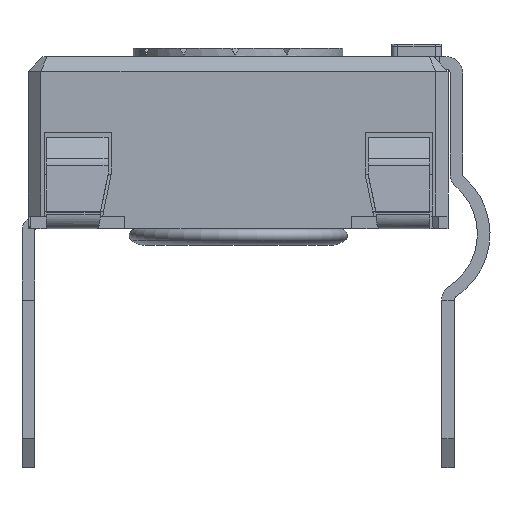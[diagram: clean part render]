
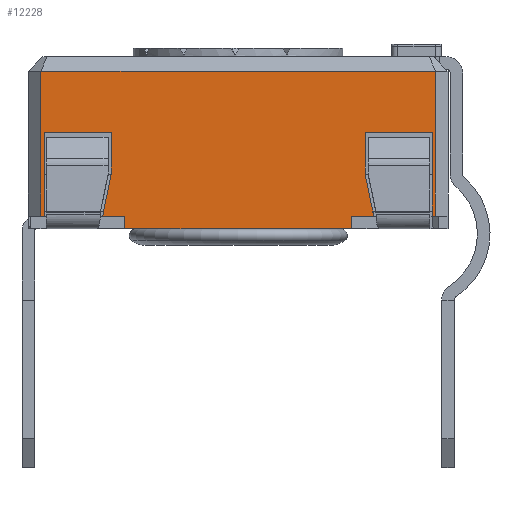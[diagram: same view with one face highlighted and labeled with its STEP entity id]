
A CAD part, left-side view. The second image highlights one B-rep face of the part: STEP entity #12228.
In plain terms, the highlighted planar face has unit normal (-1, 0, 0).
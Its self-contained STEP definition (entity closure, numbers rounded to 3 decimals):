
#491=PLANE('',#13157);
#1092=FACE_OUTER_BOUND('',#1717,.T.);
#1717=EDGE_LOOP('',(#10680,#10681,#10682,#10683,#10684,#10685,#10686,#10687,
#10688,#10689,#10690,#10691,#10692,#10693,#10694,#10695,#10696,#10697));
#2556=LINE('',#18425,#3972);
#2587=LINE('',#18487,#4003);
#2593=LINE('',#18499,#4009);
#2614=LINE('',#18541,#4030);
#2784=LINE('',#19073,#4200);
#2827=LINE('',#19155,#4243);
#2830=LINE('',#19161,#4246);
#2979=LINE('',#19539,#4395);
#2981=LINE('',#19543,#4397);
#2985=LINE('',#19551,#4401);
#2988=LINE('',#19557,#4404);
#2995=LINE('',#19571,#4411);
#2997=LINE('',#19575,#4413);
#3003=LINE('',#19586,#4419);
#3004=LINE('',#19588,#4420);
#3005=LINE('',#19591,#4421);
#3006=LINE('',#19593,#4422);
#3007=LINE('',#19594,#4423);
#3972=VECTOR('',#14990,10.);
#4003=VECTOR('',#15025,10.);
#4009=VECTOR('',#15031,10.);
#4030=VECTOR('',#15054,10.);
#4200=VECTOR('',#15534,10.);
#4243=VECTOR('',#15609,10.);
#4246=VECTOR('',#15618,10.);
#4395=VECTOR('',#15985,10.);
#4397=VECTOR('',#15989,10.);
#4401=VECTOR('',#15995,10.);
#4404=VECTOR('',#16000,10.);
#4411=VECTOR('',#16015,10.);
#4413=VECTOR('',#16019,10.);
#4419=VECTOR('',#16031,10.);
#4420=VECTOR('',#16034,10.);
#4421=VECTOR('',#16037,10.);
#4422=VECTOR('',#16038,10.);
#4423=VECTOR('',#16039,10.);
#5592=VERTEX_POINT('',#18422);
#5593=VERTEX_POINT('',#18424);
#5621=VERTEX_POINT('',#18484);
#5622=VERTEX_POINT('',#18486);
#5627=VERTEX_POINT('',#18496);
#5628=VERTEX_POINT('',#18498);
#5647=VERTEX_POINT('',#18538);
#5648=VERTEX_POINT('',#18540);
#5800=VERTEX_POINT('',#19070);
#5801=VERTEX_POINT('',#19072);
#5920=VERTEX_POINT('',#19537);
#5921=VERTEX_POINT('',#19542);
#5924=VERTEX_POINT('',#19549);
#5926=VERTEX_POINT('',#19556);
#5929=VERTEX_POINT('',#19570);
#5930=VERTEX_POINT('',#19574);
#5933=VERTEX_POINT('',#19590);
#5934=VERTEX_POINT('',#19592);
#7015=EDGE_CURVE('',#5593,#5592,#2556,.T.);
#7046=EDGE_CURVE('',#5622,#5621,#2587,.T.);
#7052=EDGE_CURVE('',#5628,#5627,#2593,.T.);
#7073=EDGE_CURVE('',#5648,#5647,#2614,.T.);
#7321=EDGE_CURVE('',#5801,#5800,#2784,.T.);
#7364=EDGE_CURVE('',#5622,#5800,#2827,.T.);
#7367=EDGE_CURVE('',#5627,#5801,#2830,.T.);
#7553=EDGE_CURVE('',#5621,#5920,#2979,.T.);
#7555=EDGE_CURVE('',#5921,#5628,#2981,.T.);
#7559=EDGE_CURVE('',#5920,#5924,#2985,.T.);
#7562=EDGE_CURVE('',#5926,#5921,#2988,.T.);
#7569=EDGE_CURVE('',#5929,#5926,#2995,.T.);
#7571=EDGE_CURVE('',#5930,#5648,#2997,.T.);
#7577=EDGE_CURVE('',#5924,#5930,#3003,.T.);
#7578=EDGE_CURVE('',#5592,#5929,#3004,.T.);
#7579=EDGE_CURVE('',#5933,#5647,#3005,.T.);
#7580=EDGE_CURVE('',#5934,#5933,#3006,.T.);
#7581=EDGE_CURVE('',#5934,#5593,#3007,.T.);
#10680=ORIENTED_EDGE('',*,*,#7578,.T.);
#10681=ORIENTED_EDGE('',*,*,#7569,.T.);
#10682=ORIENTED_EDGE('',*,*,#7562,.T.);
#10683=ORIENTED_EDGE('',*,*,#7555,.T.);
#10684=ORIENTED_EDGE('',*,*,#7052,.T.);
#10685=ORIENTED_EDGE('',*,*,#7367,.T.);
#10686=ORIENTED_EDGE('',*,*,#7321,.T.);
#10687=ORIENTED_EDGE('',*,*,#7364,.F.);
#10688=ORIENTED_EDGE('',*,*,#7046,.T.);
#10689=ORIENTED_EDGE('',*,*,#7553,.T.);
#10690=ORIENTED_EDGE('',*,*,#7559,.T.);
#10691=ORIENTED_EDGE('',*,*,#7577,.T.);
#10692=ORIENTED_EDGE('',*,*,#7571,.T.);
#10693=ORIENTED_EDGE('',*,*,#7073,.T.);
#10694=ORIENTED_EDGE('',*,*,#7579,.F.);
#10695=ORIENTED_EDGE('',*,*,#7580,.F.);
#10696=ORIENTED_EDGE('',*,*,#7581,.T.);
#10697=ORIENTED_EDGE('',*,*,#7015,.T.);
#12228=ADVANCED_FACE('',(#1092),#491,.T.);
#13157=AXIS2_PLACEMENT_3D('',#19589,#16035,#16036);
#14990=DIRECTION('',(0.,-1.,0.));
#15025=DIRECTION('',(0.,-1.,0.));
#15031=DIRECTION('',(0.,-1.,0.));
#15054=DIRECTION('',(0.,-1.,0.));
#15534=DIRECTION('',(0.,-1.,0.));
#15609=DIRECTION('',(0.,0.,-1.));
#15618=DIRECTION('',(0.,0.,-1.));
#15985=DIRECTION('',(0.,0.199,0.98));
#15989=DIRECTION('',(0.,0.199,-0.98));
#15995=DIRECTION('',(0.,0.,1.));
#16000=DIRECTION('',(0.,0.,-1.));
#16015=DIRECTION('',(0.,-1.,0.));
#16019=DIRECTION('',(0.,0.,-1.));
#16031=DIRECTION('',(0.,-1.,0.));
#16034=DIRECTION('',(0.,0.,1.));
#16035=DIRECTION('center_axis',(-1.,0.,0.));
#16036=DIRECTION('ref_axis',(0.,0.,1.));
#16037=DIRECTION('',(0.,0.,-1.));
#16038=DIRECTION('',(0.,-1.,0.));
#16039=DIRECTION('',(0.,0.,-1.));
#18422=CARTESIAN_POINT('',(-31.348,-8.365,-3.8));
#18424=CARTESIAN_POINT('',(-31.348,-8.29,-3.8));
#18425=CARTESIAN_POINT('',(-31.348,-17.69,-3.8));
#18484=CARTESIAN_POINT('',(-31.348,-16.219,-3.8));
#18486=CARTESIAN_POINT('',(-31.348,-15.69,-3.8));
#18487=CARTESIAN_POINT('',(-31.348,-9.762,-3.8));
#18496=CARTESIAN_POINT('',(-31.348,-10.29,-3.8));
#18498=CARTESIAN_POINT('',(-31.348,-9.762,-3.8));
#18499=CARTESIAN_POINT('',(-31.348,-9.762,-3.8));
#18538=CARTESIAN_POINT('',(-31.348,-17.69,-3.8));
#18540=CARTESIAN_POINT('',(-31.348,-17.615,-3.8));
#18541=CARTESIAN_POINT('',(-31.348,-17.69,-3.8));
#19070=CARTESIAN_POINT('',(-31.348,-15.69,-4.1));
#19072=CARTESIAN_POINT('',(-31.348,-10.29,-4.1));
#19073=CARTESIAN_POINT('',(-31.348,-16.219,-4.1));
#19155=CARTESIAN_POINT('',(-31.348,-15.69,-3.8));
#19161=CARTESIAN_POINT('',(-31.348,-10.29,-3.8));
#19537=CARTESIAN_POINT('',(-31.348,-16.015,-2.8));
#19539=CARTESIAN_POINT('',(-31.348,-16.219,-3.8));
#19542=CARTESIAN_POINT('',(-31.348,-9.965,-2.8));
#19543=CARTESIAN_POINT('',(-31.348,-9.965,-2.8));
#19549=CARTESIAN_POINT('',(-31.348,-16.015,-1.8));
#19551=CARTESIAN_POINT('',(-31.348,-16.015,-2.8));
#19556=CARTESIAN_POINT('',(-31.348,-9.965,-1.8));
#19557=CARTESIAN_POINT('',(-31.348,-9.965,-1.8));
#19570=CARTESIAN_POINT('',(-31.348,-8.365,-1.8));
#19571=CARTESIAN_POINT('',(-31.348,-10.64,-1.8));
#19574=CARTESIAN_POINT('',(-31.348,-17.615,-1.8));
#19575=CARTESIAN_POINT('',(-31.348,-17.615,-1.368));
#19586=CARTESIAN_POINT('',(-31.348,-10.64,-1.8));
#19588=CARTESIAN_POINT('',(-31.348,-8.365,-1.368));
#19589=CARTESIAN_POINT('Origin',(-31.348,-8.29,0.));
#19590=CARTESIAN_POINT('',(-31.348,-17.69,-0.35));
#19591=CARTESIAN_POINT('',(-31.348,-17.69,0.));
#19592=CARTESIAN_POINT('',(-31.348,-8.29,-0.35));
#19593=CARTESIAN_POINT('',(-31.348,-10.64,-0.35));
#19594=CARTESIAN_POINT('',(-31.348,-8.29,0.));
